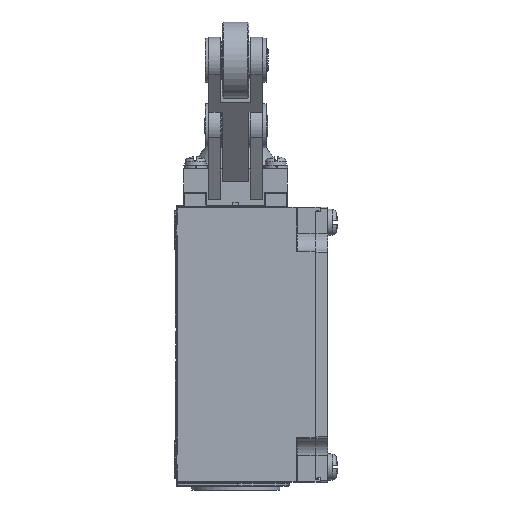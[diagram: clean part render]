
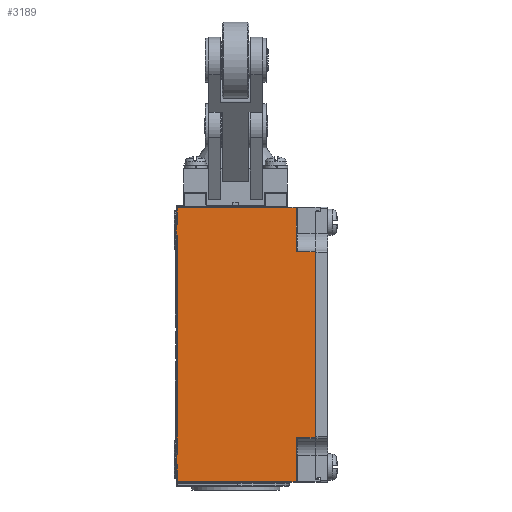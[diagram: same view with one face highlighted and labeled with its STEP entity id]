
A CAD part, front view. The second image highlights one B-rep face of the part: STEP entity #3189.
In plain terms, the highlighted planar face has unit normal (0, -1, 0).
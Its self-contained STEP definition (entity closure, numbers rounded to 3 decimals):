
#3040=CARTESIAN_POINT('',(0.0,-20.0,-36.0));
#3041=DIRECTION('',(0.0,-1.0,0.0));
#3042=DIRECTION('',(0.0,0.0,-1.0));
#3043=AXIS2_PLACEMENT_3D('',#3040,#3041,#3042);
#3044=PLANE('',#3043);
#3045=CARTESIAN_POINT('',(-18.05,-20.0,28.6));
#3046=VERTEX_POINT('',#3045);
#3047=CARTESIAN_POINT('',(-18.25,-20.0,30.));
#3048=VERTEX_POINT('',#3047);
#3049=CARTESIAN_POINT('',(-18.05,-20.0,28.6));
#3050=CARTESIAN_POINT('',(-18.05,-20.0,29.068));
#3051=CARTESIAN_POINT('',(-18.156,-20.,29.532));
#3052=CARTESIAN_POINT('',(-18.249,-20.,29.994));
#3053=CARTESIAN_POINT('',(-18.249,-20.0,29.997));
#3054=CARTESIAN_POINT('',(-18.25,-20.0,30.));
#3055=B_SPLINE_CURVE_WITH_KNOTS('',3,(#3049,#3050,#3051,#3052,#3053,#3054),.UNSPECIFIED.,.F.,.U.,(4,2,4),(0.275,0.415,0.416),.UNSPECIFIED.);
#3056=EDGE_CURVE('',#3046,#3048,#3055,.T.);
#3057=ORIENTED_EDGE('',*,*,#3056,.F.);
#3058=CARTESIAN_POINT('',(-18.05,-20.0,-28.6));
#3059=VERTEX_POINT('',#3058);
#3060=CARTESIAN_POINT('',(-18.05,-20.0,-28.6));
#3061=DIRECTION('',(0.0,0.0,1.0));
#3062=VECTOR('',#3061,57.2);
#3063=LINE('',#3060,#3062);
#3064=EDGE_CURVE('',#3059,#3046,#3063,.T.);
#3065=ORIENTED_EDGE('',*,*,#3064,.F.);
#3066=CARTESIAN_POINT('',(-18.25,-20.0,-30.));
#3067=VERTEX_POINT('',#3066);
#3068=CARTESIAN_POINT('',(-18.25,-20.0,-30.));
#3069=CARTESIAN_POINT('',(-18.249,-20.0,-29.997));
#3070=CARTESIAN_POINT('',(-18.249,-20.,-29.994));
#3071=CARTESIAN_POINT('',(-18.155,-20.,-29.531));
#3072=CARTESIAN_POINT('',(-18.05,-20.0,-29.068));
#3073=CARTESIAN_POINT('',(-18.05,-20.0,-28.6));
#3074=B_SPLINE_CURVE_WITH_KNOTS('',3,(#3068,#3069,#3070,#3071,#3072,#3073),.UNSPECIFIED.,.F.,.U.,(4,2,4),(-0.001,0.0,0.14),.UNSPECIFIED.);
#3075=EDGE_CURVE('',#3067,#3059,#3074,.T.);
#3076=ORIENTED_EDGE('',*,*,#3075,.F.);
#3077=CARTESIAN_POINT('',(-18.05,-20.0,-31.4));
#3078=VERTEX_POINT('',#3077);
#3079=CARTESIAN_POINT('',(-18.05,-20.0,-31.4));
#3080=CARTESIAN_POINT('',(-18.05,-20.0,-30.932));
#3081=CARTESIAN_POINT('',(-18.155,-20.,-30.469));
#3082=CARTESIAN_POINT('',(-18.249,-20.0,-30.006));
#3083=CARTESIAN_POINT('',(-18.249,-20.0,-30.003));
#3084=CARTESIAN_POINT('',(-18.25,-20.0,-30.));
#3085=B_SPLINE_CURVE_WITH_KNOTS('',3,(#3079,#3080,#3081,#3082,#3083,#3084),.UNSPECIFIED.,.F.,.U.,(4,2,4),(0.275,0.415,0.416),.UNSPECIFIED.);
#3086=EDGE_CURVE('',#3078,#3067,#3085,.T.);
#3087=ORIENTED_EDGE('',*,*,#3086,.F.);
#3088=CARTESIAN_POINT('',(-18.05,-20.0,-35.8));
#3089=VERTEX_POINT('',#3088);
#3090=CARTESIAN_POINT('',(-18.05,-20.0,-35.8));
#3091=DIRECTION('',(0.0,0.0,1.0));
#3092=VECTOR('',#3091,4.4);
#3093=LINE('',#3090,#3092);
#3094=EDGE_CURVE('',#3089,#3078,#3093,.T.);
#3095=ORIENTED_EDGE('',*,*,#3094,.F.);
#3096=CARTESIAN_POINT('',(13.05,-20.0,-35.8));
#3097=VERTEX_POINT('',#3096);
#3098=CARTESIAN_POINT('',(13.05,-20.0,-35.8));
#3099=DIRECTION('',(-1.0,0.0,0.0));
#3100=VECTOR('',#3099,31.1);
#3101=LINE('',#3098,#3100);
#3102=EDGE_CURVE('',#3097,#3089,#3101,.T.);
#3103=ORIENTED_EDGE('',*,*,#3102,.F.);
#3104=CARTESIAN_POINT('',(13.05,-20.0,-24.7));
#3105=VERTEX_POINT('',#3104);
#3106=CARTESIAN_POINT('',(13.05,-20.0,-24.7));
#3107=DIRECTION('',(0.0,0.0,-1.0));
#3108=VECTOR('',#3107,11.1);
#3109=LINE('',#3106,#3108);
#3110=EDGE_CURVE('',#3105,#3097,#3109,.T.);
#3111=ORIENTED_EDGE('',*,*,#3110,.F.);
#3112=CARTESIAN_POINT('',(13.45,-20.0,-24.3));
#3113=VERTEX_POINT('',#3112);
#3114=CARTESIAN_POINT('',(13.45,-20.0,-24.7));
#3115=DIRECTION('',(0.0,-1.,0.0));
#3116=DIRECTION('',(-0.707,0.0,0.707));
#3117=AXIS2_PLACEMENT_3D('',#3114,#3115,#3116);
#3118=CIRCLE('',#3117,0.4);
#3119=EDGE_CURVE('',#3113,#3105,#3118,.T.);
#3120=ORIENTED_EDGE('',*,*,#3119,.F.);
#3121=CARTESIAN_POINT('',(18.05,-20.0,-24.3));
#3122=VERTEX_POINT('',#3121);
#3123=CARTESIAN_POINT('',(18.05,-20.0,-24.3));
#3124=DIRECTION('',(-1.0,0.0,0.0));
#3125=VECTOR('',#3124,4.6);
#3126=LINE('',#3123,#3125);
#3127=EDGE_CURVE('',#3122,#3113,#3126,.T.);
#3128=ORIENTED_EDGE('',*,*,#3127,.F.);
#3129=CARTESIAN_POINT('',(18.05,-20.0,24.3));
#3130=VERTEX_POINT('',#3129);
#3131=CARTESIAN_POINT('',(18.05,-20.0,24.3));
#3132=DIRECTION('',(0.0,0.0,-1.0));
#3133=VECTOR('',#3132,48.6);
#3134=LINE('',#3131,#3133);
#3135=EDGE_CURVE('',#3130,#3122,#3134,.T.);
#3136=ORIENTED_EDGE('',*,*,#3135,.F.);
#3137=CARTESIAN_POINT('',(13.45,-20.0,24.3));
#3138=VERTEX_POINT('',#3137);
#3139=CARTESIAN_POINT('',(13.45,-20.0,24.3));
#3140=DIRECTION('',(1.0,0.0,0.0));
#3141=VECTOR('',#3140,4.6);
#3142=LINE('',#3139,#3141);
#3143=EDGE_CURVE('',#3138,#3130,#3142,.T.);
#3144=ORIENTED_EDGE('',*,*,#3143,.F.);
#3145=CARTESIAN_POINT('',(13.05,-20.0,24.7));
#3146=VERTEX_POINT('',#3145);
#3147=CARTESIAN_POINT('',(13.45,-20.0,24.7));
#3148=DIRECTION('',(0.0,-1.0,0.0));
#3149=DIRECTION('',(-0.707,0.0,-0.707));
#3150=AXIS2_PLACEMENT_3D('',#3147,#3148,#3149);
#3151=CIRCLE('',#3150,0.4);
#3152=EDGE_CURVE('',#3146,#3138,#3151,.T.);
#3153=ORIENTED_EDGE('',*,*,#3152,.F.);
#3154=CARTESIAN_POINT('',(13.05,-20.0,35.8));
#3155=VERTEX_POINT('',#3154);
#3156=CARTESIAN_POINT('',(13.05,-20.0,35.8));
#3157=DIRECTION('',(0.0,0.0,-1.0));
#3158=VECTOR('',#3157,11.1);
#3159=LINE('',#3156,#3158);
#3160=EDGE_CURVE('',#3155,#3146,#3159,.T.);
#3161=ORIENTED_EDGE('',*,*,#3160,.F.);
#3162=CARTESIAN_POINT('',(-18.05,-20.0,35.8));
#3163=VERTEX_POINT('',#3162);
#3164=CARTESIAN_POINT('',(-18.05,-20.0,35.8));
#3165=DIRECTION('',(1.0,0.0,0.0));
#3166=VECTOR('',#3165,31.1);
#3167=LINE('',#3164,#3166);
#3168=EDGE_CURVE('',#3163,#3155,#3167,.T.);
#3169=ORIENTED_EDGE('',*,*,#3168,.F.);
#3170=CARTESIAN_POINT('',(-18.05,-20.0,31.4));
#3171=VERTEX_POINT('',#3170);
#3172=CARTESIAN_POINT('',(-18.05,-20.0,31.4));
#3173=DIRECTION('',(0.0,0.0,1.0));
#3174=VECTOR('',#3173,4.4);
#3175=LINE('',#3172,#3174);
#3176=EDGE_CURVE('',#3171,#3163,#3175,.T.);
#3177=ORIENTED_EDGE('',*,*,#3176,.F.);
#3178=CARTESIAN_POINT('',(-18.25,-20.0,30.));
#3179=CARTESIAN_POINT('',(-18.249,-20.0,30.003));
#3180=CARTESIAN_POINT('',(-18.249,-20.,30.006));
#3181=CARTESIAN_POINT('',(-18.155,-20.,30.469));
#3182=CARTESIAN_POINT('',(-18.05,-20.0,30.932));
#3183=CARTESIAN_POINT('',(-18.05,-20.0,31.4));
#3184=B_SPLINE_CURVE_WITH_KNOTS('',3,(#3178,#3179,#3180,#3181,#3182,#3183),.UNSPECIFIED.,.F.,.U.,(4,2,4),(-0.001,0.0,0.14),.UNSPECIFIED.);
#3185=EDGE_CURVE('',#3048,#3171,#3184,.T.);
#3186=ORIENTED_EDGE('',*,*,#3185,.F.);
#3187=EDGE_LOOP('',(#3057,#3065,#3076,#3087,#3095,#3103,#3111,#3120,#3128,#3136,#3144,#3153,#3161,#3169,#3177,#3186));
#3188=FACE_OUTER_BOUND('',#3187,.T.);
#3189=ADVANCED_FACE('',(#3188),#3044,.T.);
